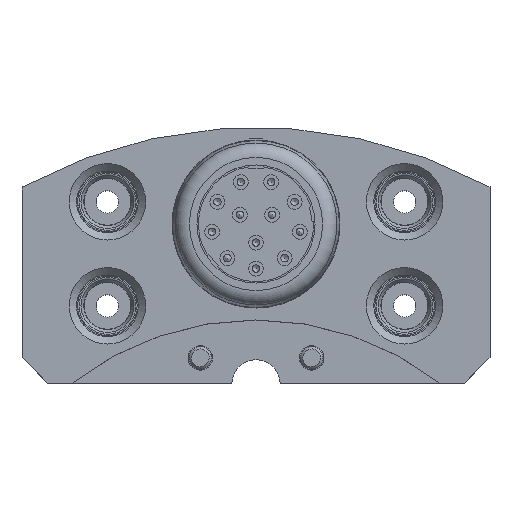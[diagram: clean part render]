
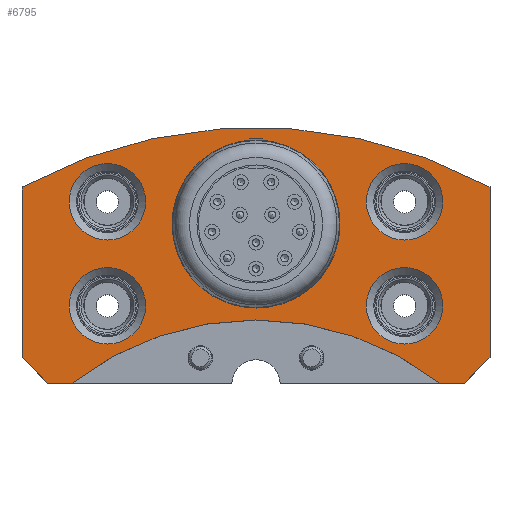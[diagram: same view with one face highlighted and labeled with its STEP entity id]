
A CAD part, top view. The second image highlights one B-rep face of the part: STEP entity #6795.
In plain terms, the highlighted planar face has unit normal (0, 0, 1).
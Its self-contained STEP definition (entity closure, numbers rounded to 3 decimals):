
#54=PLANE('',#7238);
#215=FACE_BOUND('',#882,.T.);
#216=FACE_BOUND('',#883,.T.);
#217=FACE_BOUND('',#884,.T.);
#218=FACE_BOUND('',#885,.T.);
#219=FACE_BOUND('',#886,.T.);
#497=FACE_OUTER_BOUND('',#881,.T.);
#881=EDGE_LOOP('',(#4464,#4465,#4466,#4467,#4468,#4469,#4470,#4471));
#882=EDGE_LOOP('',(#4472,#4473));
#883=EDGE_LOOP('',(#4474));
#884=EDGE_LOOP('',(#4475));
#885=EDGE_LOOP('',(#4476));
#886=EDGE_LOOP('',(#4477));
#1337=LINE('',#10474,#1751);
#1339=LINE('',#10478,#1753);
#1340=LINE('',#10480,#1754);
#1341=LINE('',#10482,#1755);
#1342=LINE('',#10486,#1756);
#1343=LINE('',#10487,#1757);
#1751=VECTOR('',#8204,10.);
#1753=VECTOR('',#8208,10.);
#1754=VECTOR('',#8209,10.);
#1755=VECTOR('',#8210,10.);
#1756=VECTOR('',#8213,10.);
#1757=VECTOR('',#8214,10.);
#2156=CIRCLE('',#7195,11.3);
#2157=CIRCLE('',#7196,11.3);
#2188=CIRCLE('',#7236,66.);
#2189=CIRCLE('',#7239,40.1);
#2190=CIRCLE('',#7240,5.15);
#2191=CIRCLE('',#7241,5.15);
#2192=CIRCLE('',#7242,5.15);
#2193=CIRCLE('',#7243,5.15);
#2681=VERTEX_POINT('',#10381);
#2682=VERTEX_POINT('',#10383);
#2716=VERTEX_POINT('',#10467);
#2717=VERTEX_POINT('',#10469);
#2718=VERTEX_POINT('',#10473);
#2719=VERTEX_POINT('',#10477);
#2720=VERTEX_POINT('',#10479);
#2721=VERTEX_POINT('',#10481);
#2722=VERTEX_POINT('',#10483);
#2723=VERTEX_POINT('',#10485);
#2724=VERTEX_POINT('',#10488);
#2725=VERTEX_POINT('',#10490);
#2726=VERTEX_POINT('',#10492);
#2727=VERTEX_POINT('',#10494);
#3389=EDGE_CURVE('',#2682,#2681,#2156,.T.);
#3390=EDGE_CURVE('',#2681,#2682,#2157,.T.);
#3431=EDGE_CURVE('',#2717,#2716,#2188,.T.);
#3433=EDGE_CURVE('',#2717,#2718,#1337,.T.);
#3435=EDGE_CURVE('',#2719,#2716,#1339,.T.);
#3436=EDGE_CURVE('',#2720,#2719,#1340,.T.);
#3437=EDGE_CURVE('',#2721,#2720,#1341,.T.);
#3438=EDGE_CURVE('',#2721,#2722,#2189,.T.);
#3439=EDGE_CURVE('',#2723,#2722,#1342,.T.);
#3440=EDGE_CURVE('',#2718,#2723,#1343,.T.);
#3441=EDGE_CURVE('',#2724,#2724,#2190,.T.);
#3442=EDGE_CURVE('',#2725,#2725,#2191,.T.);
#3443=EDGE_CURVE('',#2726,#2726,#2192,.T.);
#3444=EDGE_CURVE('',#2727,#2727,#2193,.T.);
#4464=ORIENTED_EDGE('',*,*,#3431,.T.);
#4465=ORIENTED_EDGE('',*,*,#3435,.F.);
#4466=ORIENTED_EDGE('',*,*,#3436,.F.);
#4467=ORIENTED_EDGE('',*,*,#3437,.F.);
#4468=ORIENTED_EDGE('',*,*,#3438,.T.);
#4469=ORIENTED_EDGE('',*,*,#3439,.F.);
#4470=ORIENTED_EDGE('',*,*,#3440,.F.);
#4471=ORIENTED_EDGE('',*,*,#3433,.F.);
#4472=ORIENTED_EDGE('',*,*,#3389,.T.);
#4473=ORIENTED_EDGE('',*,*,#3390,.T.);
#4474=ORIENTED_EDGE('',*,*,#3441,.F.);
#4475=ORIENTED_EDGE('',*,*,#3442,.F.);
#4476=ORIENTED_EDGE('',*,*,#3443,.F.);
#4477=ORIENTED_EDGE('',*,*,#3444,.F.);
#6795=ADVANCED_FACE('',(#497,#215,#216,#217,#218,#219),#54,.T.);
#7195=AXIS2_PLACEMENT_3D('',#10384,#8107,#8108);
#7196=AXIS2_PLACEMENT_3D('',#10385,#8109,#8110);
#7236=AXIS2_PLACEMENT_3D('',#10470,#8199,#8200);
#7238=AXIS2_PLACEMENT_3D('',#10476,#8206,#8207);
#7239=AXIS2_PLACEMENT_3D('',#10484,#8211,#8212);
#7240=AXIS2_PLACEMENT_3D('',#10489,#8215,#8216);
#7241=AXIS2_PLACEMENT_3D('',#10491,#8217,#8218);
#7242=AXIS2_PLACEMENT_3D('',#10493,#8219,#8220);
#7243=AXIS2_PLACEMENT_3D('',#10495,#8221,#8222);
#8107=DIRECTION('center_axis',(0.,0.,-1.));
#8108=DIRECTION('ref_axis',(0.,-1.,0.));
#8109=DIRECTION('center_axis',(0.,0.,-1.));
#8110=DIRECTION('ref_axis',(0.,-1.,0.));
#8199=DIRECTION('center_axis',(0.,0.,1.));
#8200=DIRECTION('ref_axis',(0.652,0.759,0.));
#8204=DIRECTION('',(0.,-1.,0.));
#8206=DIRECTION('center_axis',(0.,0.,1.));
#8207=DIRECTION('ref_axis',(1.,0.,0.));
#8208=DIRECTION('',(0.,1.,0.));
#8209=DIRECTION('',(-0.707,0.707,0.));
#8210=DIRECTION('',(-1.,0.,0.));
#8211=DIRECTION('center_axis',(0.,0.,-1.));
#8212=DIRECTION('ref_axis',(-1.,0.,0.));
#8213=DIRECTION('',(-1.,0.,0.));
#8214=DIRECTION('',(-0.707,-0.707,0.));
#8215=DIRECTION('center_axis',(0.,0.,1.));
#8216=DIRECTION('ref_axis',(-1.,0.,0.));
#8217=DIRECTION('center_axis',(0.,0.,1.));
#8218=DIRECTION('ref_axis',(-1.,0.,0.));
#8219=DIRECTION('center_axis',(0.,0.,1.));
#8220=DIRECTION('ref_axis',(-1.,0.,0.));
#8221=DIRECTION('center_axis',(0.,0.,1.));
#8222=DIRECTION('ref_axis',(-1.,0.,0.));
#10381=CARTESIAN_POINT('',(0.,64.3,9.9));
#10383=CARTESIAN_POINT('',(0.,41.7,9.9));
#10384=CARTESIAN_POINT('Origin',(0.,53.,9.9));
#10385=CARTESIAN_POINT('Origin',(0.,53.,9.9));
#10467=CARTESIAN_POINT('',(-31.5,57.998,9.9));
#10469=CARTESIAN_POINT('',(31.5,57.998,9.9));
#10470=CARTESIAN_POINT('Origin',(0.,0.,9.9));
#10473=CARTESIAN_POINT('',(31.5,35.036,9.9));
#10474=CARTESIAN_POINT('',(31.5,66.,9.9));
#10476=CARTESIAN_POINT('Origin',(0.,48.587,
9.9));
#10477=CARTESIAN_POINT('',(-31.5,35.036,9.9));
#10478=CARTESIAN_POINT('',(-31.5,31.6,9.9));
#10479=CARTESIAN_POINT('',(-28.064,31.6,9.9));
#10480=CARTESIAN_POINT('',(-26.154,29.69,9.9));
#10481=CARTESIAN_POINT('',(-24.687,31.6,9.9));
#10482=CARTESIAN_POINT('',(-3.248,31.6,9.9));
#10483=CARTESIAN_POINT('',(24.687,31.6,9.9));
#10484=CARTESIAN_POINT('Origin',(0.,0.,9.9));
#10485=CARTESIAN_POINT('',(28.064,31.6,9.9));
#10486=CARTESIAN_POINT('',(31.5,31.6,9.9));
#10487=CARTESIAN_POINT('',(26.154,29.69,9.9));
#10488=CARTESIAN_POINT('',(25.15,56.,9.9));
#10489=CARTESIAN_POINT('Origin',(20.,56.,9.9));
#10490=CARTESIAN_POINT('',(-14.85,42.,9.9));
#10491=CARTESIAN_POINT('Origin',(-20.,42.,9.9));
#10492=CARTESIAN_POINT('',(-14.85,56.,9.9));
#10493=CARTESIAN_POINT('Origin',(-20.,56.,9.9));
#10494=CARTESIAN_POINT('',(25.15,42.,9.9));
#10495=CARTESIAN_POINT('Origin',(20.,42.,9.9));
